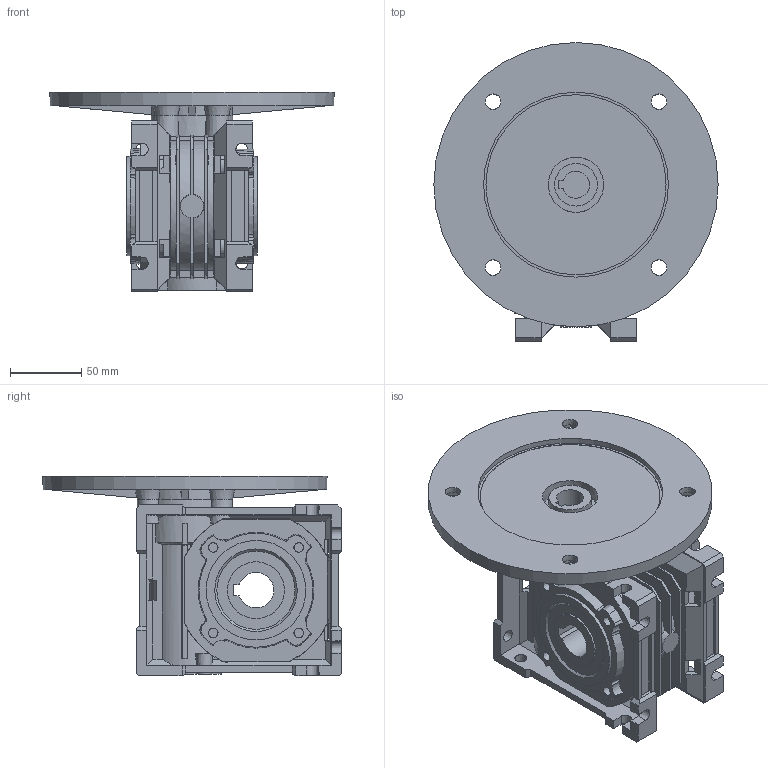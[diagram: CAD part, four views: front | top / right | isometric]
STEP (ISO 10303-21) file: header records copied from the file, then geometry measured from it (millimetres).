
FILE_DESCRIPTION( ( 'Unknown' ), '1' );
FILE_NAME( 'E:/services/configuratordownloads/customers/transtecno/cm/download/EDF6F098935F3B372AAD38DA7CEC56A/STEP/EDF6F098935F3B372AAD38DA7CEC56A.3d.stp', 'Unknown', ( 'Unknown' ), ( 'Unknown' ), 'PSStep 10.1', 'Unknown', ' ' );
FILE_SCHEMA( ( 'AUTOMOTIVE_DESIGN { 1 0 10303 214 1 1 1 1 }' ) );
Length unit declared in the file: millimetre
Products named in the file (1): d18a910e-ebdf-4396-a8b7-66ceb2f42981
Bounding box: 199.95 x 209.97 x 140 mm (x, y, z)
Volume: 1148609.7 mm3; surface area: 227270.1 mm2
Topology: 1 solids, 6 shells, 727 faces, 2049 edges, 1352 vertices
Faces by surface type: plane 539, cone 146, bspline 24, cylinder 18
Full cylindrical faces by diameter (mm): 30 x2, 40 x2, 47 x1, 55.1 x1, 70 x2, 130 x1
Entity records: 30989 total; most frequent: CARTESIAN_POINT 6931, ORIENTED_EDGE 3954, DIRECTION 3522, EDGE_CURVE 1977, VERTEX_POINT 1324, LINE 1234, VECTOR 1234, AXIS2_PLACEMENT_3D 1144
